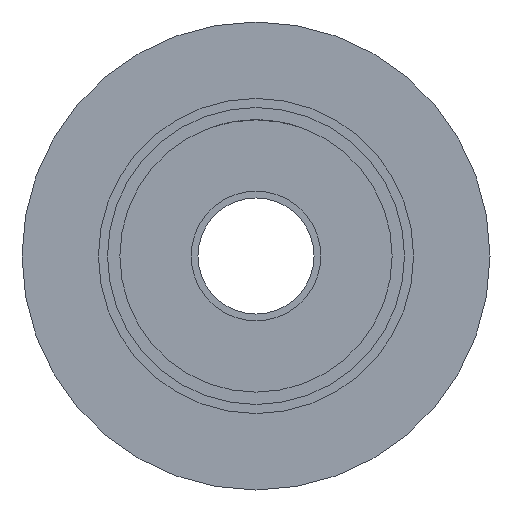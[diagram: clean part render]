
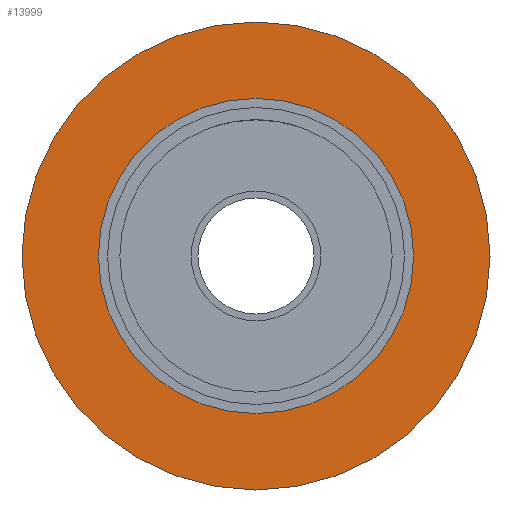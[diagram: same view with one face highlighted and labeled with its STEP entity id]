
A CAD part, front view. The second image highlights one B-rep face of the part: STEP entity #13999.
In plain terms, the highlighted planar face has unit normal (0, -1, 0).
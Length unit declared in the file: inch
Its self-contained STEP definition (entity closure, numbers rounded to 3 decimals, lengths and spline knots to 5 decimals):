
#13965=CARTESIAN_POINT('',(5.41339,10.7874,0.0));
#13966=VERTEX_POINT('',#13965);
#13967=CARTESIAN_POINT('',(0.0,10.7874,0.0));
#13968=DIRECTION('',(0.0,-1.0,0.0));
#13969=DIRECTION('',(1.0,0.0,0.0));
#13970=AXIS2_PLACEMENT_3D('',#13967,#13968,#13969);
#13971=CIRCLE('',#13970,5.41339);
#13972=EDGE_CURVE('',#13966,#13966,#13971,.T.);
#13980=CARTESIAN_POINT('',(4.52953,10.7874,0.0));
#13981=DIRECTION('',(0.0,-1.0,0.0));
#13982=DIRECTION('',(0.0,0.0,-1.0));
#13983=AXIS2_PLACEMENT_3D('',#13980,#13981,#13982);
#13984=PLANE('',#13983);
#13985=ORIENTED_EDGE('',*,*,#13972,.T.);
#13986=EDGE_LOOP('',(#13985));
#13987=FACE_OUTER_BOUND('',#13986,.T.);
#13988=CARTESIAN_POINT('',(3.64567,10.7874,0.0));
#13989=VERTEX_POINT('',#13988);
#13990=CARTESIAN_POINT('',(0.0,10.7874,0.0));
#13991=DIRECTION('',(0.0,-1.0,0.0));
#13992=DIRECTION('',(1.0,0.0,0.0));
#13993=AXIS2_PLACEMENT_3D('',#13990,#13991,#13992);
#13994=CIRCLE('',#13993,3.64567);
#13995=EDGE_CURVE('',#13989,#13989,#13994,.T.);
#13996=ORIENTED_EDGE('',*,*,#13995,.F.);
#13997=EDGE_LOOP('',(#13996));
#13998=FACE_BOUND('',#13997,.T.);
#13999=ADVANCED_FACE('',(#13987,#13998),#13984,.T.);
